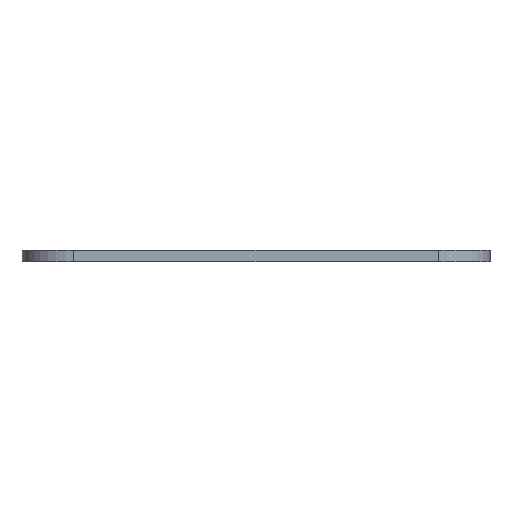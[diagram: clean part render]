
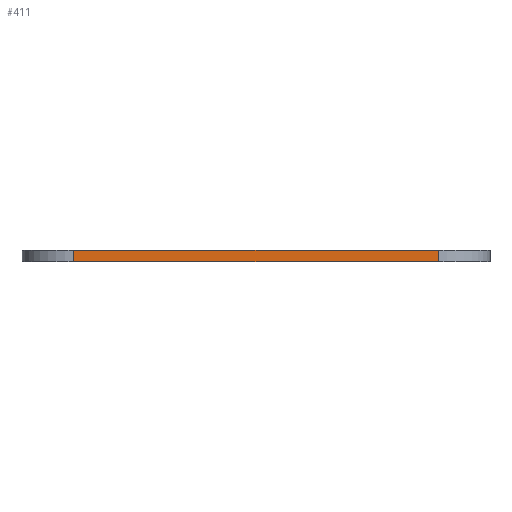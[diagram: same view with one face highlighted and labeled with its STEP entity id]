
A CAD part, left-side view. The second image highlights one B-rep face of the part: STEP entity #411.
In plain terms, the highlighted planar face has unit normal (-1, 0, 0).
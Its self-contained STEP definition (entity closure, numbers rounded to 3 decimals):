
#58 = CARTESIAN_POINT ( 'NONE',  ( -31.75, 24.75, 1.6 ) ) ;
#82 = LINE ( 'NONE', #614, #405 ) ;
#108 = CARTESIAN_POINT ( 'NONE',  ( -31.75, -24.75, 1.6 ) ) ;
#130 = VECTOR ( 'NONE', #201, 1000. ) ;
#191 = EDGE_CURVE ( 'NONE', #415, #272, #743, .T. ) ;
#201 = DIRECTION ( 'NONE',  ( 0., -1., 0. ) ) ;
#217 = EDGE_CURVE ( 'NONE', #259, #272, #443, .T. ) ;
#218 = CARTESIAN_POINT ( 'NONE',  ( -31.75, 24.75, 1.6 ) ) ;
#228 = CARTESIAN_POINT ( 'NONE',  ( -31.75, 24.75, 1.6 ) ) ;
#257 = ORIENTED_EDGE ( 'NONE', *, *, #634, .T. ) ;
#259 = VERTEX_POINT ( 'NONE', #324 ) ;
#263 = CARTESIAN_POINT ( 'NONE',  ( -31.75, -24.75, 0. ) ) ;
#272 = VERTEX_POINT ( 'NONE', #263 ) ;
#296 = AXIS2_PLACEMENT_3D ( 'NONE', #218, #338, #726 ) ;
#309 = FACE_OUTER_BOUND ( 'NONE', #556, .T. ) ;
#324 = CARTESIAN_POINT ( 'NONE',  ( -31.75, 24.75, 0. ) ) ;
#338 = DIRECTION ( 'NONE',  ( 1., 0., 0. ) ) ;
#340 = ORIENTED_EDGE ( 'NONE', *, *, #191, .F. ) ;
#365 = ORIENTED_EDGE ( 'NONE', *, *, #746, .F. ) ;
#385 = DIRECTION ( 'NONE',  ( 0., 0., -1. ) ) ;
#405 = VECTOR ( 'NONE', #579, 1000. ) ;
#411 = ADVANCED_FACE ( 'NONE', ( #309 ), #721, .F. ) ;
#415 = VERTEX_POINT ( 'NONE', #108 ) ;
#443 = LINE ( 'NONE', #612, #130 ) ;
#474 = VERTEX_POINT ( 'NONE', #228 ) ;
#478 = VECTOR ( 'NONE', #595, 1000. ) ;
#556 = EDGE_LOOP ( 'NONE', ( #601, #340, #365, #257 ) ) ;
#579 = DIRECTION ( 'NONE',  ( 0., -1., 0. ) ) ;
#594 = VECTOR ( 'NONE', #385, 1000. ) ;
#595 = DIRECTION ( 'NONE',  ( 0., 0., -1. ) ) ;
#601 = ORIENTED_EDGE ( 'NONE', *, *, #217, .T. ) ;
#605 = CARTESIAN_POINT ( 'NONE',  ( -31.75, -24.75, 1.6 ) ) ;
#612 = CARTESIAN_POINT ( 'NONE',  ( -31.75, 24.75, 0. ) ) ;
#614 = CARTESIAN_POINT ( 'NONE',  ( -31.75, 24.75, 1.6 ) ) ;
#628 = LINE ( 'NONE', #58, #478 ) ;
#634 = EDGE_CURVE ( 'NONE', #474, #259, #628, .T. ) ;
#721 = PLANE ( 'NONE',  #296 ) ;
#726 = DIRECTION ( 'NONE',  ( 0., 1., 0. ) ) ;
#743 = LINE ( 'NONE', #605, #594 ) ;
#746 = EDGE_CURVE ( 'NONE', #474, #415, #82, .T. ) ;
